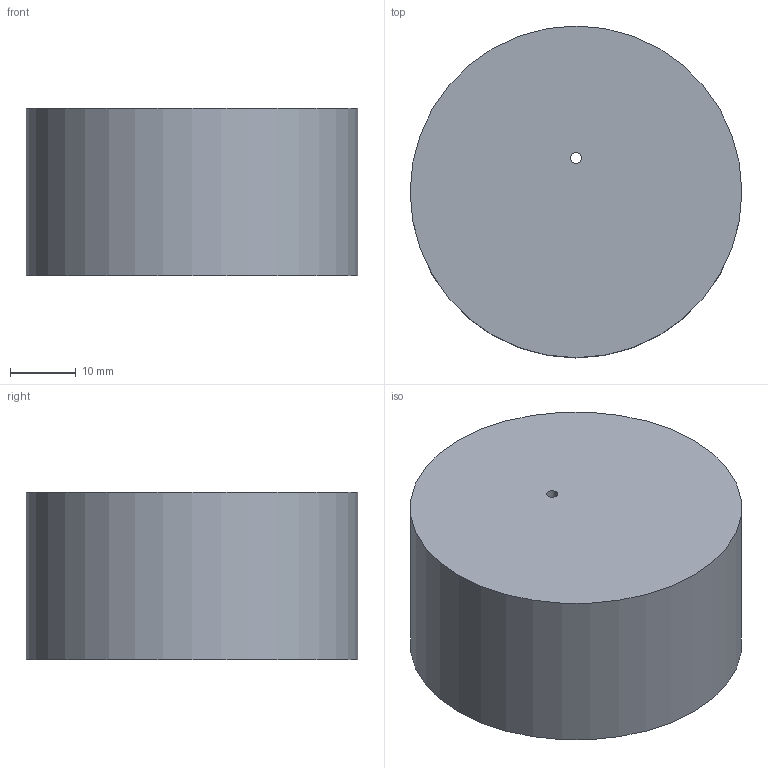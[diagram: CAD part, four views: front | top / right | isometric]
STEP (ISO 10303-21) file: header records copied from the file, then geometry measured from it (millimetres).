
FILE_DESCRIPTION( ('This file contains a STEP AP42 implementation' ,'as created by ZW3D STEP Interface translator.') ,'2;1' );
FILE_NAME( 'OGZ-48.stp' ,'26 521. 83740', (''), ('ZWCAD Software Co.'), 'Version 1.0', 'ZW3D to STEP translator', '' );
FILE_SCHEMA(('AP242_MANAGED_MODEL_BASED_3D_ENGINEERING_MIM_LF { 1 0 10303 442 1 1 4 }'));
Length unit declared in the file: millimetre
Products named in the file (1): 0
Bounding box: 50.6 x 50.6 x 25.5 mm (x, y, z)
Volume: 8248.4 mm3; surface area: 11760.1 mm2
Topology: 1 solids, 1 shells, 22 faces, 57 edges, 38 vertices
Faces by surface type: cylinder 11, sphere 8, plane 3
Full cylindrical faces by diameter (mm): 1.7 x1, 48 x1, 50.6 x1
Entity records: 779 total; most frequent: CARTESIAN_POINT 179, DIRECTION 123, ORIENTED_EDGE 114, EDGE_CURVE 57, AXIS2_PLACEMENT_3D 52, VERTEX_POINT 38, CIRCLE 29, EDGE_LOOP 25
